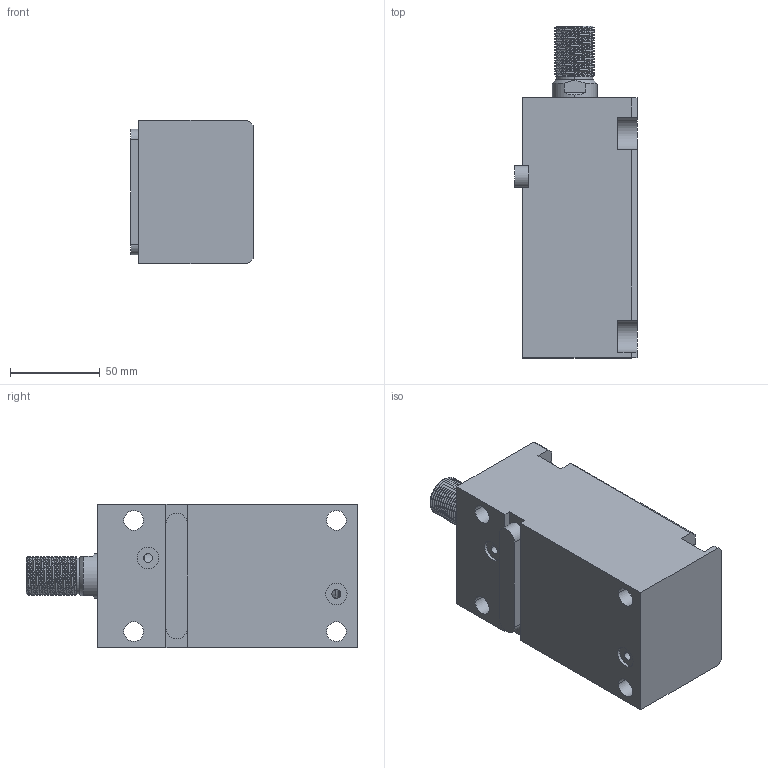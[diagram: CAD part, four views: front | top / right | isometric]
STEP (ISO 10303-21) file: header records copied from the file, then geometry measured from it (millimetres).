
FILE_DESCRIPTION (( 'STEP AP214' ), '1' );
FILE_NAME ('chtb-lam40x90w_asm.STEP', '2018-05-30T03:07:17', ( 'Windows' ), ( 'Microsoft' ), 'SwSTEP 2.0', 'SolidWorks 2015', '' );
FILE_SCHEMA (( 'AUTOMOTIVE_DESIGN' ));
Length unit declared in the file: millimetre
Products named in the file (5): CHTB-SD40X90WHSG; CHTB-SD40QG; CHTB-LAM40X90NBT; CHTB-LA40PJ; chtb-lam40x90w_asm
Assembly tree (4 placements, depth 2):
  chtb-lam40x90w_asm
    CHTB-LA40PJ
    CHTB-LAM40X90NBT
    CHTB-SD40QG
    CHTB-SD40X90WHSG
Bounding box: 68.5 x 185 x 80 mm (x, y, z)
Volume: 652908 mm3; surface area: 111154.5 mm2
Topology: 4 solids, 5 shells, 199 faces, 547 edges, 365 vertices
Faces by surface type: cylinder 111, plane 50, bspline 16, torus 12, cone 10
Entity records: 13609 total; most frequent: CARTESIAN_POINT 8674, ORIENTED_EDGE 1082, DIRECTION 894, EDGE_CURVE 541, VERTEX_POINT 365, AXIS2_PLACEMENT_3D 349, EDGE_LOOP 226, FACE_OUTER_BOUND 199
